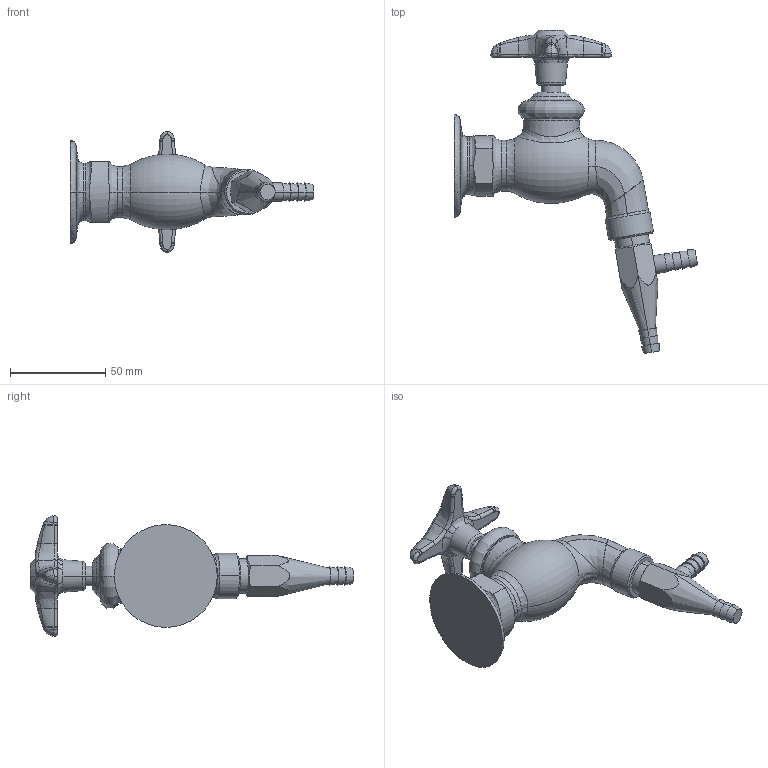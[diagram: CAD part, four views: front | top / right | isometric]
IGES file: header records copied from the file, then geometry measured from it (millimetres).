
Start section:  PTC IGES file: LWV3-A31.igs
Global section: file name: LWV3-A31.igs; native system: Creo Parametric by PTC Inc.; preprocessor: 2014500; author: usch_engrender; organization: Unknown; date: 20150910.120833; units: inch
Bounding box: 127.69 x 169.59 x 63.42 mm (x, y, z)
Volume: 132189.6 mm3; surface area: 28090.7 mm2
Topology: 1 solids, 5 shells, 369 faces, 881 edges, 532 vertices
Faces by surface type: bspline 240, revolution 129
